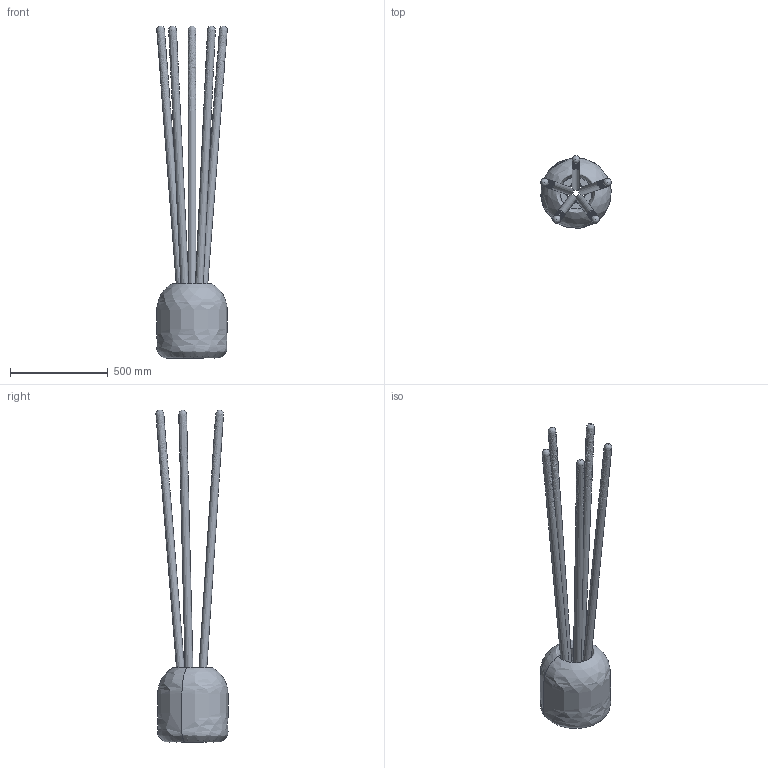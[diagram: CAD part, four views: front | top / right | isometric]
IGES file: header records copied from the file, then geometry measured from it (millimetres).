
Global section: file name: V:\DC\DSK_Ale_LDC\ale dsk ldc\LDC\x_Attila\def\2d objects\living e outdoor\aroma\3d\iges\Luce_Di_Carrara_Living_Outdoor_Aroma.igs; native system: Rhinoceros ( Dec 12 2023 ); preprocessor: Trout Lake IGES 012 Dec 12 2023; date: 250219.111115; units: millimetre
Bounding box: 360.47 x 368.16 x 1694.48 mm (x, y, z)
Surface area: 1901369.4 mm2 (no closed solid volume)
Topology: 0 solids, 0 shells, 38 faces, 369 edges, 364 vertices
Faces by surface type: bspline 38
